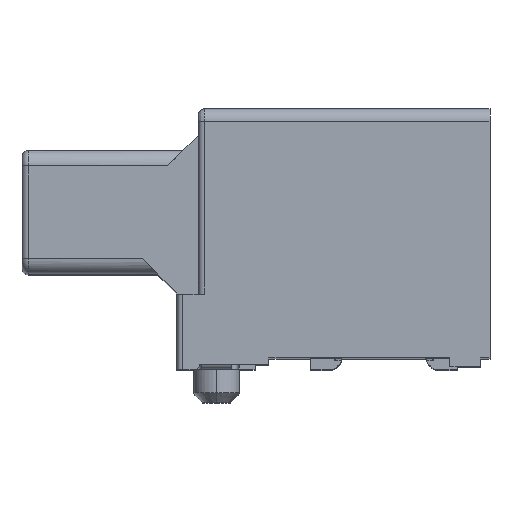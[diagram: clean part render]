
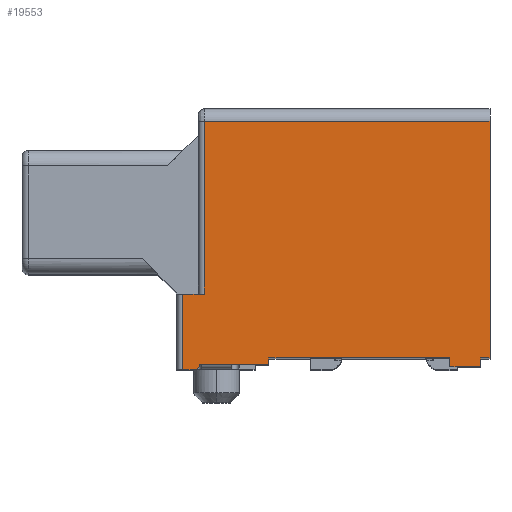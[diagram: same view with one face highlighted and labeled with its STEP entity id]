
A CAD part, top view. The second image highlights one B-rep face of the part: STEP entity #19553.
In plain terms, the highlighted planar face has unit normal (0, 0, 1).
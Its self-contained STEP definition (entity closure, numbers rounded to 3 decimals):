
#97=DIRECTION('',(1.,0.,0.));
#98=VECTOR('',#97,5.86);
#99=CARTESIAN_POINT('',(3.1,0.,10.79));
#100=LINE('',#99,#98);
#105=DIRECTION('',(1.,0.,0.));
#106=VECTOR('',#105,0.3);
#107=CARTESIAN_POINT('',(9.96,0.,10.79));
#108=LINE('',#107,#106);
#889=DIRECTION('',(1.,0.,0.));
#890=VECTOR('',#889,2.25);
#891=CARTESIAN_POINT('',(0.85,-0.21,10.79));
#892=LINE('',#891,#890);
#1019=DIRECTION('',(0.,-1.,0.));
#1020=VECTOR('',#1019,2.45);
#1021=CARTESIAN_POINT('',(0.3,2.07,10.79));
#1022=LINE('',#1021,#1020);
#1027=DIRECTION('',(-0.707,-0.707,0.));
#1028=VECTOR('',#1027,0.141);
#1029=CARTESIAN_POINT('',(0.85,-0.28,10.79));
#1030=LINE('',#1029,#1028);
#1031=DIRECTION('',(1.,0.,0.));
#1032=VECTOR('',#1031,0.71);
#1033=CARTESIAN_POINT('',(0.3,2.07,10.79));
#1034=LINE('',#1033,#1032);
#1039=DIRECTION('',(0.,1.,0.));
#1040=VECTOR('',#1039,0.07);
#1041=CARTESIAN_POINT('',(0.85,-0.28,10.79));
#1042=LINE('',#1041,#1040);
#1076=DIRECTION('',(1.,0.,0.));
#1077=VECTOR('',#1076,0.45);
#1078=CARTESIAN_POINT('',(0.3,-0.38,10.79));
#1079=LINE('',#1078,#1077);
#1451=DIRECTION('',(0.,1.,0.));
#1452=VECTOR('',#1451,7.67);
#1453=CARTESIAN_POINT('',(10.26,0.,10.79));
#1454=LINE('',#1453,#1452);
#1912=DIRECTION('',(-1.,0.,0.));
#1913=VECTOR('',#1912,9.25);
#1914=CARTESIAN_POINT('',(10.26,7.67,10.79));
#1915=LINE('',#1914,#1913);
#1935=DIRECTION('',(0.,-1.,0.));
#1936=VECTOR('',#1935,5.6);
#1937=CARTESIAN_POINT('',(1.01,7.67,10.79));
#1938=LINE('',#1937,#1936);
#7215=DIRECTION('',(0.,1.,0.));
#7216=VECTOR('',#7215,0.28);
#7217=CARTESIAN_POINT('',(9.96,-0.28,10.79));
#7218=LINE('',#7217,#7216);
#7227=DIRECTION('',(0.,-1.,0.));
#7228=VECTOR('',#7227,0.28);
#7229=CARTESIAN_POINT('',(8.96,0.,10.79));
#7230=LINE('',#7229,#7228);
#7243=DIRECTION('',(1.,0.,0.));
#7244=VECTOR('',#7243,1.);
#7245=CARTESIAN_POINT('',(8.96,-0.28,10.79));
#7246=LINE('',#7245,#7244);
#7251=DIRECTION('',(0.,1.,0.));
#7252=VECTOR('',#7251,0.21);
#7253=CARTESIAN_POINT('',(3.1,-0.21,10.79));
#7254=LINE('',#7253,#7252);
#13987=CARTESIAN_POINT('',(0.3,2.07,10.79));
#13988=CARTESIAN_POINT('',(0.3,-0.38,10.79));
#13989=VERTEX_POINT('',#13987);
#13990=VERTEX_POINT('',#13988);
#13991=CARTESIAN_POINT('',(0.85,-0.28,10.79));
#13992=CARTESIAN_POINT('',(0.75,-0.38,10.79));
#13993=VERTEX_POINT('',#13991);
#13994=VERTEX_POINT('',#13992);
#13995=CARTESIAN_POINT('',(1.01,2.07,10.79));
#13996=VERTEX_POINT('',#13995);
#13997=CARTESIAN_POINT('',(1.01,7.67,10.79));
#13998=VERTEX_POINT('',#13997);
#13999=CARTESIAN_POINT('',(10.26,7.67,10.79));
#14000=VERTEX_POINT('',#13999);
#14001=CARTESIAN_POINT('',(10.26,0.,10.79));
#14002=VERTEX_POINT('',#14001);
#14003=CARTESIAN_POINT('',(9.96,0.,10.79));
#14004=VERTEX_POINT('',#14003);
#14005=CARTESIAN_POINT('',(9.96,-0.28,10.79));
#14006=VERTEX_POINT('',#14005);
#14007=CARTESIAN_POINT('',(8.96,-0.28,10.79));
#14008=VERTEX_POINT('',#14007);
#14009=CARTESIAN_POINT('',(8.96,0.,10.79));
#14010=VERTEX_POINT('',#14009);
#14011=CARTESIAN_POINT('',(3.1,0.,10.79));
#14012=VERTEX_POINT('',#14011);
#14013=CARTESIAN_POINT('',(3.1,-0.21,10.79));
#14014=VERTEX_POINT('',#14013);
#14015=CARTESIAN_POINT('',(0.85,-0.21,10.79));
#14016=VERTEX_POINT('',#14015);
#19520=CARTESIAN_POINT('',(5.28,3.645,10.79));
#19521=DIRECTION('',(0.,0.,1.));
#19522=DIRECTION('',(1.,0.,0.));
#19523=AXIS2_PLACEMENT_3D('',#19520,#19521,#19522);
#19524=PLANE('',#19523);
#19526=ORIENTED_EDGE('',*,*,#19525,.T.);
#19528=ORIENTED_EDGE('',*,*,#19527,.F.);
#19529=ORIENTED_EDGE('',*,*,#19510,.F.);
#19531=ORIENTED_EDGE('',*,*,#19530,.T.);
#19533=ORIENTED_EDGE('',*,*,#19532,.F.);
#19535=ORIENTED_EDGE('',*,*,#19534,.F.);
#19537=ORIENTED_EDGE('',*,*,#19536,.F.);
#19538=ORIENTED_EDGE('',*,*,#18157,.F.);
#19540=ORIENTED_EDGE('',*,*,#19539,.F.);
#19542=ORIENTED_EDGE('',*,*,#19541,.F.);
#19544=ORIENTED_EDGE('',*,*,#19543,.F.);
#19545=ORIENTED_EDGE('',*,*,#18149,.F.);
#19547=ORIENTED_EDGE('',*,*,#19546,.F.);
#19548=ORIENTED_EDGE('',*,*,#19396,.F.);
#19550=ORIENTED_EDGE('',*,*,#19549,.F.);
#19551=EDGE_LOOP('',(#19526,#19528,#19529,#19531,#19533,#19535,#19537,#19538,
#19540,#19542,#19544,#19545,#19547,#19548,#19550));
#19552=FACE_OUTER_BOUND('',#19551,.F.);
#19553=ADVANCED_FACE('',(#19552),#19524,.T.);
#18149=EDGE_CURVE('',#14012,#14010,#100,.T.);
#18157=EDGE_CURVE('',#14004,#14002,#108,.T.);
#19396=EDGE_CURVE('',#14016,#14014,#892,.T.);
#19510=EDGE_CURVE('',#13989,#13990,#1022,.T.);
#19525=EDGE_CURVE('',#13993,#13994,#1030,.T.);
#19527=EDGE_CURVE('',#13990,#13994,#1079,.T.);
#19530=EDGE_CURVE('',#13989,#13996,#1034,.T.);
#19532=EDGE_CURVE('',#13998,#13996,#1938,.T.);
#19534=EDGE_CURVE('',#14000,#13998,#1915,.T.);
#19536=EDGE_CURVE('',#14002,#14000,#1454,.T.);
#19539=EDGE_CURVE('',#14006,#14004,#7218,.T.);
#19541=EDGE_CURVE('',#14008,#14006,#7246,.T.);
#19543=EDGE_CURVE('',#14010,#14008,#7230,.T.);
#19546=EDGE_CURVE('',#14014,#14012,#7254,.T.);
#19549=EDGE_CURVE('',#13993,#14016,#1042,.T.);
